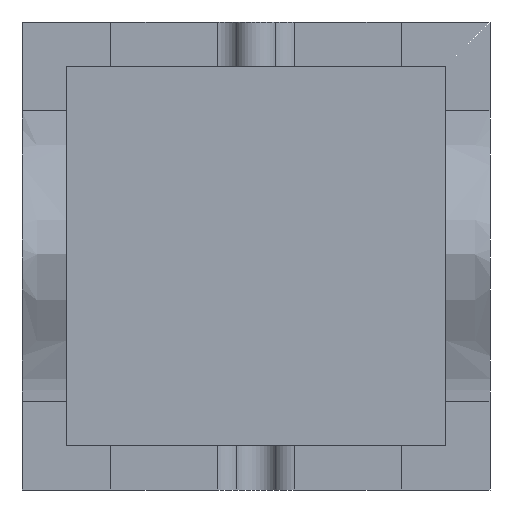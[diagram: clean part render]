
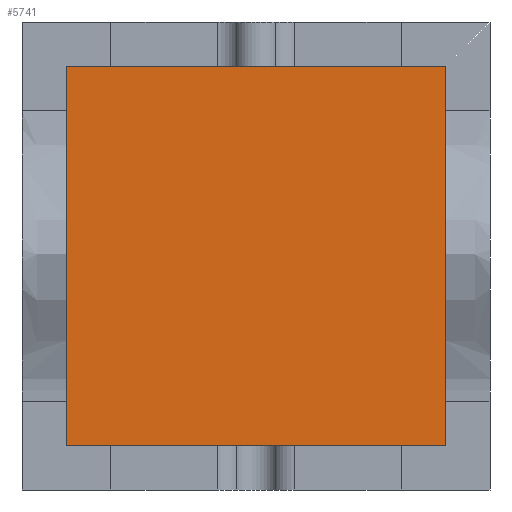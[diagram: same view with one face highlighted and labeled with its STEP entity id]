
A CAD part, front view. The second image highlights one B-rep face of the part: STEP entity #5741.
In plain terms, the highlighted planar face has unit normal (0, -1, 0).
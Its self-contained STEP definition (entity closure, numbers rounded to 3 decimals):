
#5615=CARTESIAN_POINT('Vertex',(-20.,-30.,-20.)) ;
#5620=CARTESIAN_POINT('Line Origine',(-20.,-30.,65.5)) ;
#5624=CARTESIAN_POINT('Vertex',(-20.,-30.,151.)) ;
#5651=CARTESIAN_POINT('Line Origine',(65.5,-30.,151.)) ;
#5655=CARTESIAN_POINT('Vertex',(151.,-30.,151.)) ;
#5682=CARTESIAN_POINT('Line Origine',(151.,-30.,65.5)) ;
#5686=CARTESIAN_POINT('Vertex',(151.,-30.,-20.)) ;
#5713=CARTESIAN_POINT('Line Origine',(65.5,-30.,-20.)) ;
#5730=CARTESIAN_POINT('Axis2P3D Location',(0.,-30.,0.)) ;
#5621=DIRECTION('Vector Direction',(0.,0.,-1.)) ;
#5652=DIRECTION('Vector Direction',(1.,0.,0.)) ;
#5683=DIRECTION('Vector Direction',(0.,0.,1.)) ;
#5714=DIRECTION('Vector Direction',(-1.,0.,0.)) ;
#5731=DIRECTION('Axis2P3D Direction',(0.,1.,0.)) ;
#5732=DIRECTION('Axis2P3D XDirection',(-1.,0.,0.)) ;
#5733=AXIS2_PLACEMENT_3D('Plane Axis2P3D',#5730,#5731,#5732) ;
#5736=ORIENTED_EDGE('',*,*,#5717,.F.) ;
#5737=ORIENTED_EDGE('',*,*,#5688,.F.) ;
#5738=ORIENTED_EDGE('',*,*,#5657,.F.) ;
#5739=ORIENTED_EDGE('',*,*,#5626,.F.) ;
#5622=VECTOR('Line Direction',#5621,1.) ;
#5653=VECTOR('Line Direction',#5652,1.) ;
#5684=VECTOR('Line Direction',#5683,1.) ;
#5715=VECTOR('Line Direction',#5714,1.) ;
#5741=ADVANCED_FACE('Cavity-molde',(#5740),#5734,.F.) ;
#5626=EDGE_CURVE('',#5616,#5625,#5623,.F.) ;
#5657=EDGE_CURVE('',#5625,#5656,#5654,.T.) ;
#5688=EDGE_CURVE('',#5656,#5687,#5685,.F.) ;
#5717=EDGE_CURVE('',#5687,#5616,#5716,.T.) ;
#5735=EDGE_LOOP('',(#5736,#5737,#5738,#5739)) ;
#5740=FACE_OUTER_BOUND('',#5735,.T.) ;
#5623=LINE('Line',#5620,#5622) ;
#5654=LINE('Line',#5651,#5653) ;
#5685=LINE('Line',#5682,#5684) ;
#5716=LINE('Line',#5713,#5715) ;
#5734=PLANE('',#5733) ;
#5616=VERTEX_POINT('',#5615) ;
#5625=VERTEX_POINT('',#5624) ;
#5656=VERTEX_POINT('',#5655) ;
#5687=VERTEX_POINT('',#5686) ;
